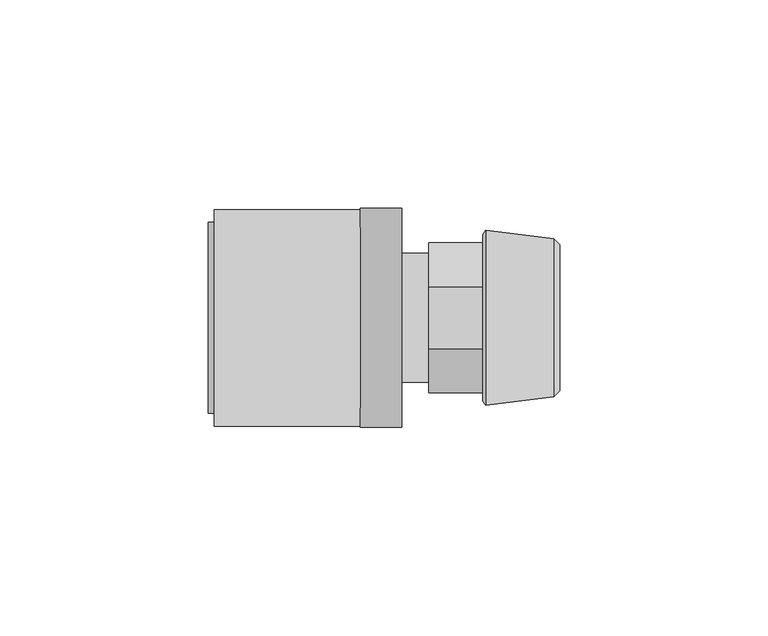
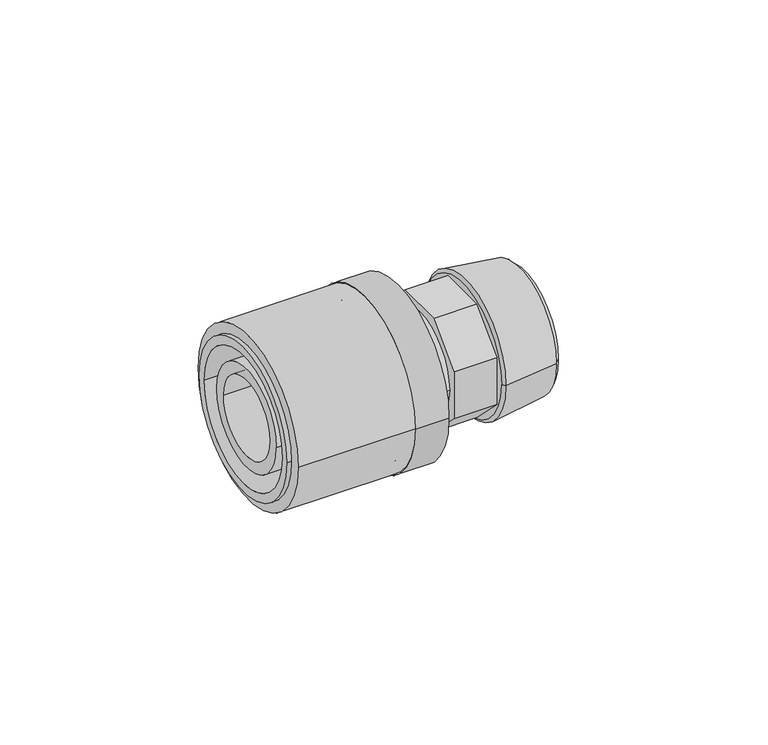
"""IFC4 building model written with IfcOpenShell, lengths in millimetres: pipe fitting geometry, FASTLOC_Adapter_LX, with external thread : FSL A C external CZ."""

from ifc_helpers import new_model, si_unit, point, frame, origin, origin_2d, place, context, project, spatial, polyline, circle_curve, trimmed, segment, composite_curve, outline, extrude, source, transform, mapped, element, save
from ifc_brep_helpers import plane_surface, cylinder_surface, revolved_surface, advanced_brep


def pipe_fitting_e8fea69e(model_context):
    return source(origin(), model_context, "Body", "SolidModel", [
        extrude(outline(composite_curve([segment(trimmed(circle_curve(origin_2d(), 26.0), [point((26.0, 0.0))], [point((-26.0, 0.0))], False, "CARTESIAN"), True, "CONTINUOUS"), segment(trimmed(circle_curve(origin_2d(), 26.0), [point((-26.0, 0.0))], [point((26.0, 0.0))], False, "CARTESIAN"), True, "CONTINUOUS")], self_intersect=False), holes=[composite_curve([segment(trimmed(circle_curve(origin_2d(), 21.25), [point((21.25, 0.0))], [point((-21.25, 0.0))], True, "CARTESIAN"), True, "CONTINUOUS"), segment(trimmed(circle_curve(origin_2d(), 21.25), [point((-21.25, 0.0))], [point((21.25, 0.0))], True, "CARTESIAN"), True, "CONTINUOUS")], self_intersect=False)]), frame((-51.4, 0.0, 0.0), z_axis=(1.0, 0.0, 0.0), x_axis=(0.0, 1.0, 0.0)), (0.0, 0.0, 1.0), 35.0),
        advanced_brep(
        [(-16.4, -26.3, 0.0), (-16.4, 26.3, 0.0), (-6.4, 26.3, 0.0), (-6.4, -26.3, 0.0), (-52.9, -22.9, 0.0), (-52.9, 22.9, 0.0), (-16.4, 22.9, 0.0), (-16.4, -22.9, 0.0), (-6.4, -20.2, 0.0), (-6.4, 20.2, 0.0), (-52.9, 20.2, 0.0), (-52.9, -20.2, 0.0)],
        [
            (0, 1, circle_curve(frame((-16.4, 0.0, 0.0), z_axis=(1.0, 0.0, 0.0), x_axis=(0.0, 1.0, 0.0)), 26.3)),
            (1, 2),
            (2, 3, circle_curve(frame((-6.4, 0.0, 0.0), z_axis=(-1.0, 0.0, 0.0), x_axis=(0.0, 1.0, 0.0)), 26.3)),
            (3, 0),
            (4, 5, circle_curve(frame((-52.9, 0.0, 0.0), z_axis=(1.0, 0.0, 0.0), x_axis=(0.0, 1.0, 0.0)), 22.9)),
            (5, 6),
            (6, 7, circle_curve(frame((-16.4, 0.0, 0.0), z_axis=(-1.0, 0.0, 0.0), x_axis=(0.0, 1.0, 0.0)), 22.9)),
            (7, 4),
            (8, 9, circle_curve(frame((-6.4, 0.0, 0.0), z_axis=(1.0, 0.0, 0.0), x_axis=(0.0, 1.0, 0.0)), 20.2)),
            (9, 10),
            (10, 11, circle_curve(frame((-52.9, 0.0, 0.0), z_axis=(-1.0, 0.0, 0.0), x_axis=(0.0, 1.0, 0.0)), 20.2)),
            (11, 8),
            (1, 0, circle_curve(frame((-16.4, 0.0, 0.0), z_axis=(1.0, 0.0, 0.0), x_axis=(0.0, -1.0, 0.0)), 26.3)),
            (3, 2, circle_curve(frame((-6.4, 0.0, 0.0), z_axis=(-1.0, 0.0, 0.0), x_axis=(0.0, -1.0, 0.0)), 26.3)),
            (6, 7, circle_curve(frame((-16.4, 0.0, 0.0), z_axis=(1.0, 0.0, 0.0), x_axis=(0.0, -1.0, 0.0)), 22.9)),
            (5, 4, circle_curve(frame((-52.9, 0.0, 0.0), z_axis=(1.0, 0.0, 0.0), x_axis=(0.0, -1.0, 0.0)), 22.9)),
            (10, 11, circle_curve(frame((-52.9, 0.0, 0.0), z_axis=(1.0, 0.0, 0.0), x_axis=(0.0, -1.0, 0.0)), 20.2)),
            (9, 8, circle_curve(frame((-6.4, 0.0, 0.0), z_axis=(1.0, 0.0, 0.0), x_axis=(0.0, -1.0, 0.0)), 20.2)),
        ],
        [
            cylinder_surface(frame((-6.4, 0.0, 0.0), z_axis=(-1.0, 0.0, 0.0), x_axis=(0.0, 1.0, 0.0)), 26.3),
            cylinder_surface(frame((-6.4, 0.0, 0.0), z_axis=(-1.0, 0.0, 0.0), x_axis=(0.0, 1.0, 0.0)), 22.9),
            revolved_surface(polyline([(-52.9, 20.2, 0.0), (-6.4, 20.2, 0.0)]), (-6.4, 0.0, 0.0), (-1.0, 0.0, 0.0)),
            cylinder_surface(frame((-6.4, 0.0, 0.0), z_axis=(-1.0, 0.0, 0.0), x_axis=(0.0, -1.0, 0.0)), 26.3),
            plane_surface(frame((-16.4, 0.0, 0.0), z_axis=(-1.0, 0.0, 0.0), x_axis=(0.0, -1.0, 0.0))),
            cylinder_surface(frame((-6.4, 0.0, 0.0), z_axis=(-1.0, 0.0, 0.0), x_axis=(0.0, -1.0, 0.0)), 22.9),
            plane_surface(frame((-52.9, 0.0, 0.0), z_axis=(-1.0, 0.0, 0.0), x_axis=(0.0, -1.0, 0.0))),
            revolved_surface(polyline([(-52.9, -20.2, 0.0), (-6.4, -20.2, 0.0)]), (-6.4, 0.0, 0.0), (-1.0, 0.0, 0.0)),
            plane_surface(frame((-6.4, 0.0, 0.0), z_axis=(1.0, 0.0, 0.0), x_axis=(0.0, -1.0, 0.0))),
        ],
        [
            (0, [[1, 2, 3, 4]]),
            (1, [[5, 6, 7, 8]]),
            (2, [[9, 10, 11, 12]]),
            (3, [[13, -4, 14, -2]]),
            (4, [[-13, -1], [15, -7]]),
            (5, [[16, -8, -15, -6]]),
            (6, [[-16, -5], [17, -11]]),
            (7, [[18, -12, -17, -10]]),
            (8, [[-14, -3], [-18, -9]]),
        ],
    ),
        advanced_brep(
        [(-16.4, 15.5, 0.0), (-16.4, -15.5, 0.0), (-51.9, -15.5, 0.0), (-51.9, 15.5, 0.0), (-12.7, 17.2, 0.0), (-12.7, -17.2, 0.0), (-16.4, -17.2, 0.0), (-16.4, 17.2, 0.0), (0.0, 15.5, 0.0), (0.0, -15.5, 0.0), (-12.7, -15.5, 0.0), (-12.7, 15.5, 0.0), (-51.9, 11.95, 0.0), (-51.9, -11.95, 0.0), (0.0, -11.95, 0.0), (0.0, 11.95, 0.0)],
        [
            (0, 1, circle_curve(frame((-16.4, 0.0, 0.0), z_axis=(-1.0, 0.0, 0.0), x_axis=(0.0, -1.0, 0.0)), 15.5)),
            (1, 2),
            (2, 3, circle_curve(frame((-51.9, 0.0, 0.0), z_axis=(1.0, 0.0, 0.0), x_axis=(0.0, -1.0, 0.0)), 15.5)),
            (3, 0),
            (4, 5, circle_curve(frame((-12.7, 0.0, 0.0), z_axis=(-1.0, 0.0, 0.0), x_axis=(0.0, -1.0, 0.0)), 17.2)),
            (5, 6),
            (6, 7, circle_curve(frame((-16.4, 0.0, 0.0), z_axis=(1.0, 0.0, 0.0), x_axis=(0.0, -1.0, 0.0)), 17.2)),
            (7, 4),
            (8, 9, circle_curve(frame((0.0, 0.0, 0.0), z_axis=(-1.0, 0.0, 0.0), x_axis=(0.0, -1.0, 0.0)), 15.5)),
            (9, 10),
            (10, 11, circle_curve(frame((-12.7, 0.0, 0.0), z_axis=(1.0, 0.0, 0.0), x_axis=(0.0, -1.0, 0.0)), 15.5)),
            (11, 8),
            (12, 13, circle_curve(frame((-51.9, 0.0, 0.0), z_axis=(-1.0, 0.0, 0.0), x_axis=(0.0, -1.0, 0.0)), 11.95)),
            (13, 14),
            (14, 15, circle_curve(frame((0.0, 0.0, 0.0), z_axis=(1.0, 0.0, 0.0), x_axis=(0.0, -1.0, 0.0)), 11.95)),
            (15, 12),
            (2, 3, circle_curve(frame((-51.9, 0.0, 0.0), z_axis=(-1.0, 0.0, 0.0), x_axis=(0.0, 1.0, 0.0)), 15.5)),
            (12, 13, circle_curve(frame((-51.9, 0.0, 0.0), z_axis=(1.0, 0.0, 0.0), x_axis=(0.0, 1.0, 0.0)), 11.95)),
            (1, 0, circle_curve(frame((-16.4, 0.0, 0.0), z_axis=(-1.0, 0.0, 0.0), x_axis=(0.0, 1.0, 0.0)), 15.5)),
            (6, 7, circle_curve(frame((-16.4, 0.0, 0.0), z_axis=(-1.0, 0.0, 0.0), x_axis=(0.0, 1.0, 0.0)), 17.2)),
            (5, 4, circle_curve(frame((-12.7, 0.0, 0.0), z_axis=(-1.0, 0.0, 0.0), x_axis=(0.0, 1.0, 0.0)), 17.2)),
            (10, 11, circle_curve(frame((-12.7, 0.0, 0.0), z_axis=(-1.0, 0.0, 0.0), x_axis=(0.0, 1.0, 0.0)), 15.5)),
            (9, 8, circle_curve(frame((0.0, 0.0, 0.0), z_axis=(-1.0, 0.0, 0.0), x_axis=(0.0, 1.0, 0.0)), 15.5)),
            (14, 15, circle_curve(frame((0.0, 0.0, 0.0), z_axis=(-1.0, 0.0, 0.0), x_axis=(0.0, 1.0, 0.0)), 11.95)),
        ],
        [
            cylinder_surface(frame((0.0, 0.0, 0.0), z_axis=(1.0, 0.0, 0.0), x_axis=(0.0, -1.0, 0.0)), 15.5),
            cylinder_surface(frame((0.0, 0.0, 0.0), z_axis=(1.0, 0.0, 0.0), x_axis=(0.0, -1.0, 0.0)), 17.2),
            revolved_surface(polyline([(0.0, -11.95, 0.0), (-51.9, -11.95, 0.0)]), (0.0, 0.0, 0.0), (1.0, 0.0, 0.0)),
            plane_surface(frame((-51.9, 0.0, 0.0), z_axis=(-1.0, 0.0, 0.0), x_axis=(0.0, 1.0, 0.0))),
            cylinder_surface(frame((0.0, 0.0, 0.0), z_axis=(1.0, 0.0, 0.0), x_axis=(0.0, 1.0, 0.0)), 15.5),
            plane_surface(frame((-16.4, 0.0, 0.0), z_axis=(-1.0, 0.0, 0.0), x_axis=(0.0, 1.0, 0.0))),
            cylinder_surface(frame((0.0, 0.0, 0.0), z_axis=(1.0, 0.0, 0.0), x_axis=(0.0, 1.0, 0.0)), 17.2),
            plane_surface(frame((-12.7, 0.0, 0.0), z_axis=(1.0, 0.0, 0.0), x_axis=(0.0, 1.0, 0.0))),
            plane_surface(frame((0.0, 0.0, 0.0), z_axis=(1.0, 0.0, 0.0), x_axis=(0.0, 1.0, 0.0))),
            revolved_surface(polyline([(0.0, 11.95, 0.0), (-51.9, 11.95, 0.0)]), (0.0, 0.0, 0.0), (1.0, 0.0, 0.0)),
        ],
        [
            (0, [[1, 2, 3, 4]]),
            (1, [[5, 6, 7, 8]]),
            (0, [[9, 10, 11, 12]]),
            (2, [[13, 14, 15, 16]]),
            (3, [[17, -3], [18, -13]]),
            (4, [[19, -4, -17, -2]]),
            (5, [[20, -7], [-19, -1]]),
            (6, [[21, -8, -20, -6]]),
            (7, [[-21, -5], [22, -11]]),
            (4, [[23, -12, -22, -10]]),
            (8, [[-23, -9], [24, -15]]),
            (9, [[-18, -16, -24, -14]]),
        ],
    ),
        advanced_brep(
        [(14.1032803, 15.0, 0.0), (14.1032803, -15.0, 0.0), (31.5, -15.0, 0.0), (31.5, 15.0, 0.0), (13.0, 13.8967197, 0.0), (13.0, -13.8967197, 0.0), (13.7406902, 21.0, 0.0), (13.7406902, -21.0, 0.0), (13.0, -20.0, 0.0), (13.0, 20.0, 0.0), (30.0000007, 19.0, 0.0), (30.0000007, -19.0, 0.0), (31.5, 17.5, 0.0), (31.5, -17.5, 0.0)],
        [
            (0, 1, circle_curve(frame((14.1032803, 0.0, 0.0), z_axis=(-1.0, 0.0, 0.0), x_axis=(0.0, -1.0, 0.0)), 15.0)),
            (1, 2),
            (2, 3, circle_curve(frame((31.5, 0.0, 0.0), z_axis=(1.0, 0.0, 0.0), x_axis=(0.0, -1.0, 0.0)), 15.0)),
            (3, 0),
            (4, 5, circle_curve(frame((13.0, 0.0, 0.0), z_axis=(-1.0, 0.0, 0.0), x_axis=(0.0, -1.0, 0.0)), 13.8967197)),
            (5, 1),
            (0, 4),
            (6, 7, circle_curve(frame((13.7406902, 0.0, 0.0), z_axis=(-1.0, 0.0, 0.0), x_axis=(0.0, -1.0, 0.0)), 21.0)),
            (7, 8),
            (8, 9, circle_curve(frame((13.0, 0.0, 0.0), z_axis=(1.0, 0.0, 0.0), x_axis=(0.0, -1.0, 0.0)), 20.0)),
            (9, 6),
            (10, 11, circle_curve(frame((30.0000007, 0.0, 0.0), z_axis=(-1.0, 0.0, 0.0), x_axis=(0.0, -1.0, 0.0)), 19.0)),
            (11, 7),
            (6, 10),
            (12, 13, circle_curve(frame((31.5, 0.0, 0.0), z_axis=(-1.0, 0.0, 0.0), x_axis=(0.0, -1.0, 0.0)), 17.5)),
            (13, 11),
            (10, 12),
            (1, 0, circle_curve(frame((14.1032803, 0.0, 0.0), z_axis=(-1.0, 0.0, 0.0), x_axis=(0.0, 1.0, 0.0)), 15.0)),
            (3, 2, circle_curve(frame((31.5, 0.0, 0.0), z_axis=(1.0, 0.0, 0.0), x_axis=(0.0, 1.0, 0.0)), 15.0)),
            (5, 4, circle_curve(frame((13.0, 0.0, 0.0), z_axis=(-1.0, 0.0, 0.0), x_axis=(0.0, 1.0, 0.0)), 13.8967197)),
            (8, 9, circle_curve(frame((13.0, 0.0, 0.0), z_axis=(-1.0, 0.0, 0.0), x_axis=(0.0, 1.0, 0.0)), 20.0)),
            (7, 6, circle_curve(frame((13.7406902, 0.0, 0.0), z_axis=(-1.0, 0.0, 0.0), x_axis=(0.0, 1.0, 0.0)), 21.0)),
            (11, 10, circle_curve(frame((30.0000007, 0.0, 0.0), z_axis=(-1.0, 0.0, 0.0), x_axis=(0.0, 1.0, 0.0)), 19.0)),
            (13, 12, circle_curve(frame((31.5, 0.0, 0.0), z_axis=(-1.0, 0.0, 0.0), x_axis=(0.0, 1.0, 0.0)), 17.5)),
        ],
        [
            revolved_surface(polyline([(31.5, -15.0, 0.0), (14.1032803, -15.0, 0.0)]), (0.0, 0.0, 0.0), (1.0, 0.0, 0.0)),
            revolved_surface(polyline([(14.1032803, -15.0, 0.0), (13.0, -13.8967197, 0.0)]), (0.0, 0.0, 0.0), (1.0, 0.0, 0.0)),
            revolved_surface(polyline([(13.0, -20.0, 0.0), (13.7406902, -21.0, 0.0)]), (0.0, 0.0, 0.0), (1.0, 0.0, 0.0)),
            revolved_surface(polyline([(13.7406902, -21.0, 0.0), (30.0000007, -19.0, 0.0)]), (0.0, 0.0, 0.0), (1.0, 0.0, 0.0)),
            revolved_surface(polyline([(30.0000007, -19.0, 0.0), (31.5, -17.5, 0.0)]), (0.0, 0.0, 0.0), (1.0, 0.0, 0.0)),
            revolved_surface(polyline([(31.5, 15.0, 0.0), (14.1032803, 15.0, 0.0)]), (0.0, 0.0, 0.0), (1.0, 0.0, 0.0)),
            revolved_surface(polyline([(14.1032803, 15.0, 0.0), (13.0, 13.8967197, 0.0)]), (0.0, 0.0, 0.0), (1.0, 0.0, 0.0)),
            plane_surface(frame((13.0, 0.0, 0.0), z_axis=(-1.0, 0.0, 0.0), x_axis=(0.0, 1.0, 0.0))),
            revolved_surface(polyline([(13.0, 20.0, 0.0), (13.7406902, 21.0, 0.0)]), (0.0, 0.0, 0.0), (1.0, 0.0, 0.0)),
            revolved_surface(polyline([(13.7406902, 21.0, 0.0), (30.0000007, 19.0, 0.0)]), (0.0, 0.0, 0.0), (1.0, 0.0, 0.0)),
            revolved_surface(polyline([(30.0000007, 19.0, 0.0), (31.5, 17.5, 0.0)]), (0.0, 0.0, 0.0), (1.0, 0.0, 0.0)),
            plane_surface(frame((31.5, 0.0, 0.0), z_axis=(1.0, 0.0, 0.0), x_axis=(0.0, 1.0, 0.0))),
        ],
        [
            (0, [[1, 2, 3, 4]]),
            (1, [[5, 6, -1, 7]]),
            (2, [[8, 9, 10, 11]]),
            (3, [[12, 13, -8, 14]]),
            (4, [[15, 16, -12, 17]]),
            (5, [[18, -4, 19, -2]]),
            (6, [[20, -7, -18, -6]]),
            (7, [[21, -10], [-20, -5]]),
            (8, [[22, -11, -21, -9]]),
            (9, [[23, -14, -22, -13]]),
            (10, [[24, -17, -23, -16]]),
            (11, [[-24, -15], [-19, -3]]),
        ],
    ),
        extrude(outline(polyline([(-18.0, 7.4558441), (-7.4558441, 18.0), (7.4558441, 18.0), (18.0, 7.4558441), (18.0, -7.4558441), (7.4558441, -18.0), (-7.4558441, -18.0), (-18.0, -7.4558441), (-18.0, 7.4558441)])), frame((0.0, 0.0, 0.0), z_axis=(1.0, 0.0, 0.0), x_axis=(0.0, 1.0, 0.0)), (0.0, 0.0, 1.0), 13.0),
    ])


if __name__ == "__main__":
    model = new_model("IFC4")
    model_context = context("Model", 3, world=origin())
    ifc_project = project(units=[si_unit("LENGTHUNIT", "METRE", prefix="MILLI")], contexts=[model_context])
    site = spatial("IfcSite", under=ifc_project)
    building = spatial("IfcBuilding", under=site)
    placement = place(None, origin())
    pipe_fitting_shape = pipe_fitting_e8fea69e(model_context)
    element("IfcPipeFitting", 1, ObjectType="FASTLOC_Adapter_LX, with external thread : FSL A C external CZ", at=placement, inside=building, context=model_context, shape_type="MappedRepresentation", body=[
        mapped(pipe_fitting_shape, transform((0.0, 0.0, 0.0), x_axis=(1.0, 0.0, 0.0), y_axis=(0.0, 1.0, 0.0), z_axis=(0.0, 0.0, 1.0))),
    ])
    save(model, "model.ifc")
